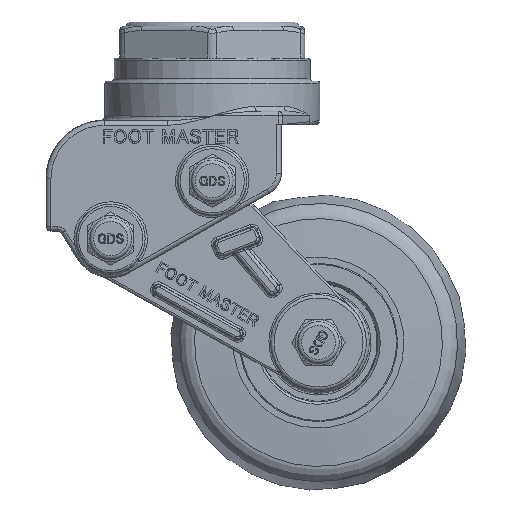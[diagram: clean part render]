
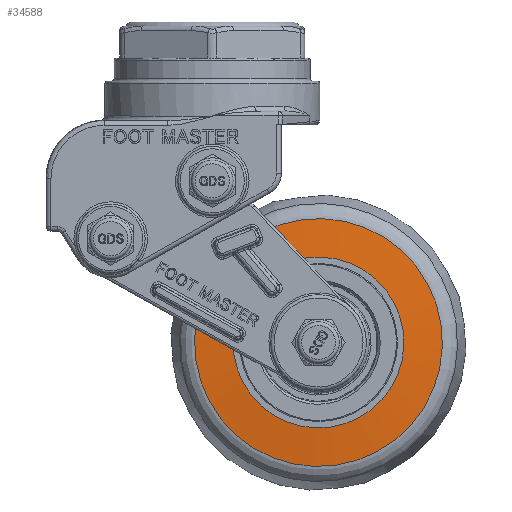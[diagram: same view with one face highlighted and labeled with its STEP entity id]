
A CAD part, front view. The second image highlights one B-rep face of the part: STEP entity #34588.
In plain terms, the highlighted conical face has half-angle 85 degrees and reference radius 22.669 mm.
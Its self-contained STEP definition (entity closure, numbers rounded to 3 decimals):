
#201=CONICAL_SURFACE('',#36769,22.669,1.484);
#2316=FACE_OUTER_BOUND('',#4307,.T.);
#4307=EDGE_LOOP('',(#22947,#22948,#22949,#22950,#22951,#22952));
#6437=CIRCLE('',#36767,26.838);
#6438=CIRCLE('',#36768,26.838);
#6439=CIRCLE('',#36770,18.5);
#6440=CIRCLE('',#36771,18.5);
#7498=LINE('',#49027,#10001);
#10001=VECTOR('',#39776,22.669);
#14144=VERTEX_POINT('',#49020);
#14145=VERTEX_POINT('',#49022);
#14146=VERTEX_POINT('',#49026);
#14147=VERTEX_POINT('',#49028);
#17560=EDGE_CURVE('',#14144,#14145,#6437,.T.);
#17561=EDGE_CURVE('',#14145,#14144,#6438,.T.);
#17562=EDGE_CURVE('',#14144,#14146,#7498,.T.);
#17563=EDGE_CURVE('',#14146,#14147,#6439,.T.);
#17564=EDGE_CURVE('',#14147,#14146,#6440,.T.);
#22947=ORIENTED_EDGE('',*,*,#17561,.F.);
#22948=ORIENTED_EDGE('',*,*,#17560,.F.);
#22949=ORIENTED_EDGE('',*,*,#17562,.T.);
#22950=ORIENTED_EDGE('',*,*,#17563,.T.);
#22951=ORIENTED_EDGE('',*,*,#17564,.T.);
#22952=ORIENTED_EDGE('',*,*,#17562,.F.);
#34588=ADVANCED_FACE('',(#2316),#201,.T.);
#36767=AXIS2_PLACEMENT_3D('',#49023,#39770,#39771);
#36768=AXIS2_PLACEMENT_3D('',#49024,#39772,#39773);
#36769=AXIS2_PLACEMENT_3D('',#49025,#39774,#39775);
#36770=AXIS2_PLACEMENT_3D('',#49029,#39777,#39778);
#36771=AXIS2_PLACEMENT_3D('',#49030,#39779,#39780);
#39770=DIRECTION('center_axis',(0.,1.,0.));
#39771=DIRECTION('ref_axis',(0.309,0.,-0.951));
#39772=DIRECTION('center_axis',(0.,1.,0.));
#39773=DIRECTION('ref_axis',(0.309,0.,-0.951));
#39774=DIRECTION('center_axis',(0.,1.,0.));
#39775=DIRECTION('ref_axis',(0.309,0.,-0.951));
#39776=DIRECTION('',(0.308,-0.087,-0.947));
#39777=DIRECTION('center_axis',(0.,1.,0.));
#39778=DIRECTION('ref_axis',(0.309,0.,-0.951));
#39779=DIRECTION('center_axis',(0.,1.,0.));
#39780=DIRECTION('ref_axis',(0.309,0.,-0.951));
#49020=CARTESIAN_POINT('',(-17.316,-8.866,-33.467));
#49022=CARTESIAN_POINT('',(-0.707,-8.866,-84.51));
#49023=CARTESIAN_POINT('Origin',(-9.011,-8.866,-58.989));
#49024=CARTESIAN_POINT('Origin',(-9.011,-8.866,-58.989));
#49025=CARTESIAN_POINT('Origin',(-9.011,-9.23,-58.989));
#49026=CARTESIAN_POINT('',(-14.736,-9.595,-41.397));
#49027=CARTESIAN_POINT('',(-16.026,-9.23,-37.432));
#49028=CARTESIAN_POINT('',(-3.287,-9.595,-76.581));
#49029=CARTESIAN_POINT('Origin',(-9.011,-9.595,-58.989));
#49030=CARTESIAN_POINT('Origin',(-9.011,-9.595,-58.989));
